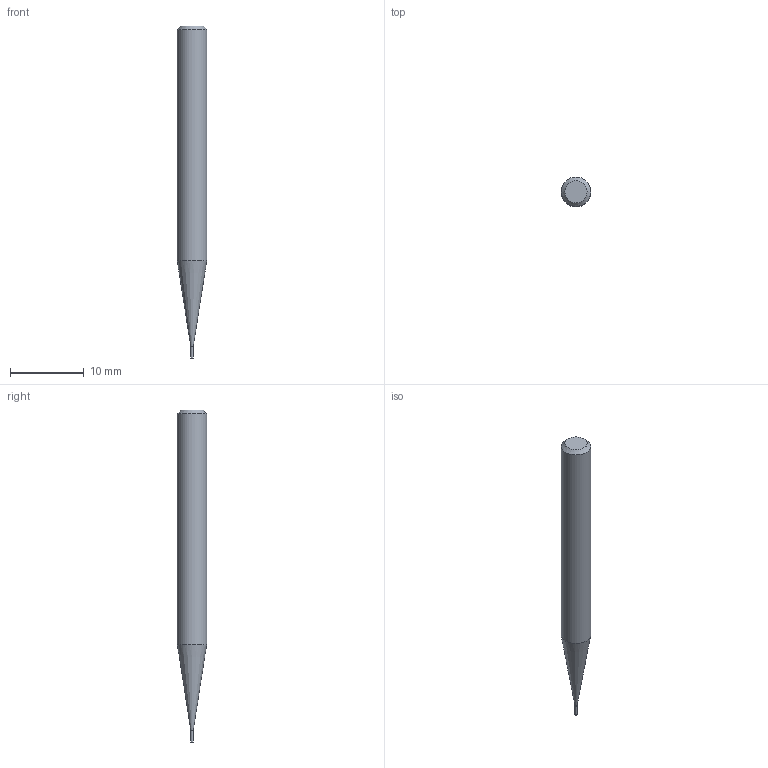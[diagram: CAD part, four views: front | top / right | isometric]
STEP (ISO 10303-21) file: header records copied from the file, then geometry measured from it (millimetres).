
FILE_DESCRIPTION((''),'2;1');
FILE_NAME('C:\Users\nsx150\Desktop\RSE230_20210427\01-00644-00301 RSE230 D0_3X1_5.step','2021-05-07T14:52:27',(''),(''),'STEP Write','Mastercam 2021 ... CNC Software, Inc.','');
FILE_SCHEMA(('AUTOMOTIVE_DESIGN'));
Length unit declared in the file: millimetre
Products named in the file (1): None
Bounding box: 4 x 4 x 45 mm (x, y, z)
Volume: 451.4 mm3; surface area: 489.9 mm2
Topology: 2 solids, 2 shells, 8 faces, 10 edges, 6 vertices
Faces by surface type: plane 4, cylinder 2, cone 2
Full cylindrical faces by diameter (mm): 0.3 x1, 4 x1
Entity records: 190 total; most frequent: DIRECTION 32, CARTESIAN_POINT 22, AXIS2_PLACEMENT_3D 16, ORIENTED_EDGE 12, EDGE_LOOP 12, STYLED_ITEM 11, ADVANCED_FACE 8, VERTEX_POINT 6
